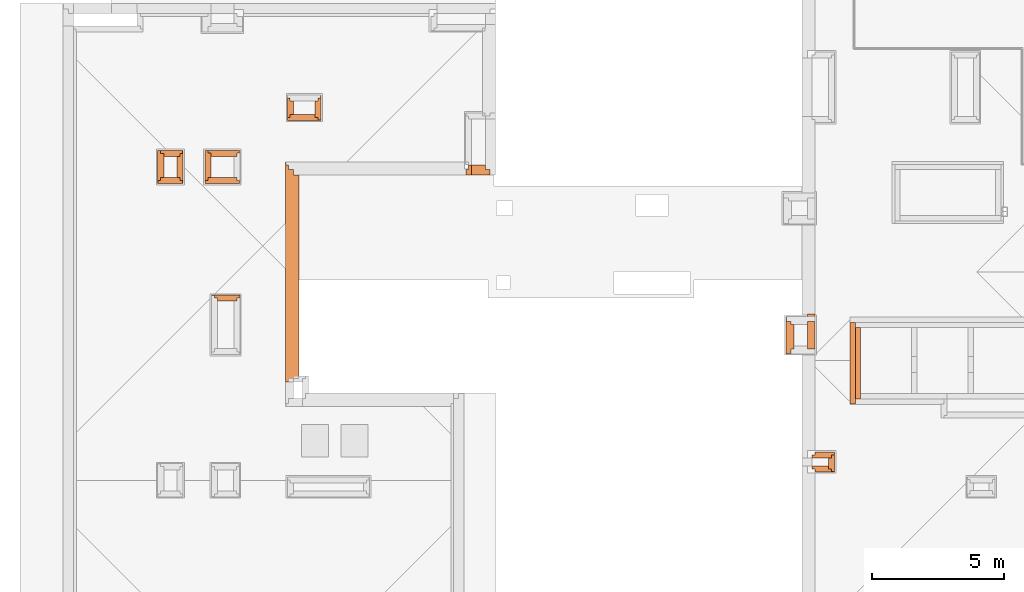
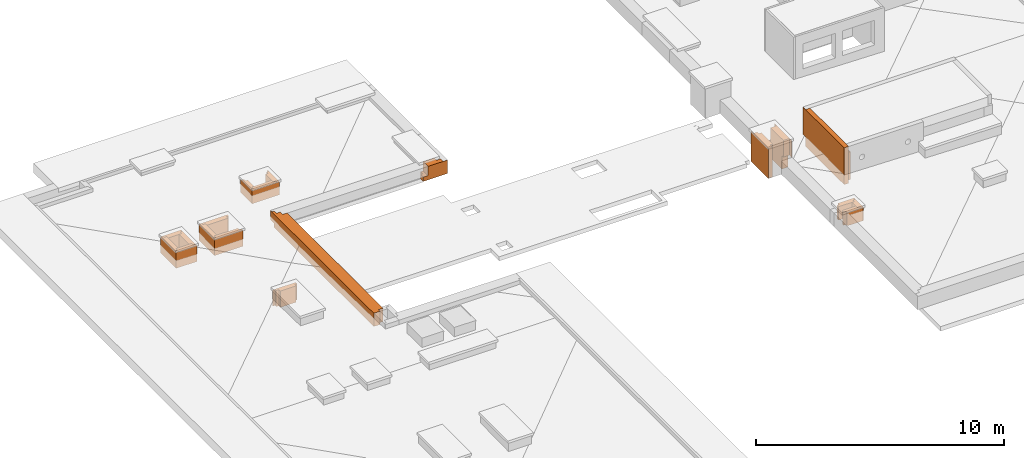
# One storey, part 9 of 16: 19 proxies.
"""IFC2X3 building model written with IfcOpenShell, lengths in millimetres."""

from ifc_helpers import new_model, entity, si_unit, converted_unit, derived_unit, money_unit, direction, frame, origin_with_axes, place, context, subcontext, project, spatial, faceted_brep, material, material_list, type_object, element, save


model = new_model("IFC2X3")

# Units and contexts
model_context = context("Model", 3, precision=0.01, world=origin_with_axes(), true_north=direction((0.34421633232, 0.938890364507)))
body_context = subcontext(model_context, "Body", "Model", "MODEL_VIEW")
ifc_project = project(units=[si_unit("LENGTHUNIT", "METRE", prefix="MILLI"), si_unit("AREAUNIT", "SQUARE_METRE"), si_unit("VOLUMEUNIT", "CUBIC_METRE"), converted_unit("PLANEANGLEUNIT", "DEGREE", entity("IfcPlaneAngleMeasure", 0.0174532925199), si_unit("PLANEANGLEUNIT", "RADIAN"), dimensions=[0, 0, 0, 0, 0, 0, 0]), si_unit("SOLIDANGLEUNIT", "STERADIAN"), money_unit("USD"), converted_unit("TIMEUNIT", "Year", entity("IfcTimeMeasure", 31556926.0), si_unit("TIMEUNIT", "SECOND"), dimensions=[0, 0, 1, 0, 0, 0, 0]), si_unit("MASSUNIT", "GRAM", prefix="KILO"), si_unit("THERMODYNAMICTEMPERATUREUNIT", "DEGREE_CELSIUS"), si_unit("LUMINOUSINTENSITYUNIT", "LUMEN"), si_unit("ENERGYUNIT", "JOULE", prefix="MEGA"), derived_unit("THERMALCONDUCTANCEUNIT", [(si_unit("POWERUNIT", "WATT"), 1), (si_unit("LENGTHUNIT", "METRE"), -1), (si_unit("THERMODYNAMICTEMPERATUREUNIT", "KELVIN"), -1)]), derived_unit("SPECIFICHEATCAPACITYUNIT", [(si_unit("ENERGYUNIT", "JOULE"), 1), (si_unit("MASSUNIT", "GRAM", prefix="KILO"), -1), (si_unit("THERMODYNAMICTEMPERATUREUNIT", "KELVIN"), -1)]), derived_unit("MASSDENSITYUNIT", [(si_unit("MASSUNIT", "GRAM", prefix="KILO"), 1), (si_unit("VOLUMEUNIT", "CUBIC_METRE"), -1)])], contexts=[model_context])

# Site, building, storey
site_placement = place(None, origin_with_axes())
site = spatial("IfcSite", under=ifc_project, at=site_placement, Name="USTRONIE MORSKIE", CompositionType="ELEMENT")
building_placement = place(site_placement, origin_with_axes())
building = spatial("IfcBuilding", under=site, at=building_placement, Name="Budynek", CompositionType="ELEMENT")
storey_placement = place(building_placement, frame((0.0, 0.0, 19000.0), z_axis=(0.0, 0.0, 1.0), x_axis=(1.0, 0.0, 0.0)))
storey = spatial("IfcBuildingStorey", under=building, at=storey_placement, Name="DACH", CompositionType="ELEMENT", Elevation=19000.0)

# Proxies
ifc_material_1 = material(Name="Tynk zewnętrzny")
ifc_material_2 = material(Name="Wełna ELEW")
ifc_material_3 = material(Name="Beton konstrukcyjny B25")
ifc_material_list_1 = material_list([ifc_material_1, ifc_material_2, ifc_material_3])
building_element_proxy_type_1 = type_object("IfcBuildingElementProxyType", Name="20+20 410", PredefinedType="NOTDEFINED")
proxy_1_placement = place(storey_placement, frame((381137.920919, 730091.199025, -360.0), z_axis=(0.0, 0.0, 1.0), x_axis=(0.0, 1.0, 0.0)))
element("IfcBuildingElementProxy", 1, at=proxy_1_placement, inside=storey, type_object=building_element_proxy_type_1, material=ifc_material_list_1, Name="Œciana-006", context=body_context, shape_type="Brep", body=[
    faceted_brep([(-200.0, 300.0, 692.511983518), (1354.99991171, 300.0, 723.611981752), (2909.99982342, 300.0, 692.511983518), (3010.00001118, 300.0, 692.511987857), (3010.00001118, 300.0, 2025.0), (-310.0, 300.0, 2025.0), (-310.0, 300.0, 692.511988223), (-300.0, 300.0, 692.511988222), (1354.99991171, 310.0, 723.611981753), (-189.999924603, 310.000075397, 692.711985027), (2899.99991419, 309.999909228, 692.711981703), (3010.00001118, 310.0, 692.711987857), (3010.00001118, 310.0, 2025.0), (-310.0, 310.0, 2025.0), (-310.0, 310.0, 692.711988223)], [[[0, 1, 2, 3, 4, 5, 6, 7]], [[8, 1, 0, 9]], [[1, 8, 10, 2]], [[11, 3, 2, 10]], [[11, 12, 4, 3]], [[4, 12, 13, 5]], [[13, 14, 6, 5]], [[9, 0, 7, 6, 14]], [[8, 9, 14, 13, 12, 11, 10]]]),
    faceted_brep([(-300.0, 100.0, 205.0), (2810.00001118, 100.0, 205.0), (2810.00001118, 100.0, 2025.0), (-300.0, 100.0, 2025.0), (2810.00001118, 300.0, 205.0), (-300.0, 300.0, 205.0), (2810.00001118, 300.0, 2025.0), (-300.0, 300.0, 2025.0)], [[[0, 1, 2, 3]], [[4, 1, 0, 5]], [[1, 4, 6, 2]], [[2, 6, 7, 3]], [[5, 0, 3, 7]], [[4, 5, 7, 6]]]),
    faceted_brep([(2610.00001118, -100.0, 200.0), (2610.00001118, 100.0, 200.0), (2610.00001118, 100.0, 1570.0), (2610.00001118, -100.0, 1570.0), (-100.0, -100.0, 200.0), (-100.0, 100.0, 200.0), (-100.0, 100.0, 1570.0), (-100.0, -100.0, 1570.0)], [[[0, 1, 2, 3]], [[4, 5, 1, 0]], [[1, 5, 6, 2]], [[2, 6, 7, 3]], [[4, 0, 3, 7]], [[5, 4, 7, 6]]]),
])
ifc_material_4 = material(Name="Bloczki silikatowe")
ifc_material_list_2 = material_list([ifc_material_1, ifc_material_2, ifc_material_4, ifc_material_2, ifc_material_1])
building_element_proxy_type_2 = type_object("IfcBuildingElementProxyType", Name="18 SILIKAT+20-10 500", PredefinedType="NOTDEFINED")
proxy_2_placement = place(storey_placement, frame((359697.920867, 738701.198924, -155.0), z_axis=(0.0, 0.0, 1.0), x_axis=(0.0, -1.0, 0.0)))
element("IfcBuildingElementProxy", 2, at=proxy_2_placement, inside=storey, type_object=building_element_proxy_type_2, material=ifc_material_list_2, Name="Œciana-006", context=body_context, shape_type="Brep", body=[
    faceted_brep([(7839.99988821, 200.0, 655.0), (7839.99988821, 210.0, 655.0), (210.0, 210.0, 655.0), (210.0, 200.0, 655.0), (7839.99988821, 210.0, 0.0), (7839.99988821, 200.0, 0.0), (0.0, 210.0, 0.0), (0.0, 210.0, 205.0), (200.0, 210.0, 205.0), (210.0, 210.0, 205.0), (210.0, 200.0, 205.0), (200.0, 200.0, 205.0), (0.0, 200.0, 205.0), (0.0, 200.0, 0.0)], [[[0, 1, 2, 3]], [[4, 1, 0, 5]], [[1, 4, 6, 7, 8, 9, 2]], [[3, 2, 9, 10]], [[5, 0, 3, 10, 11, 12, 13]], [[4, 5, 13, 6]], [[12, 7, 6, 13]], [[11, 8, 7, 12]], [[9, 8, 11, 10]]]),
    faceted_brep([(7939.99988821, 0.0, 655.0), (7939.99988821, 200.0, 655.0), (200.0, 200.0, 655.0), (200.0, 0.0, 655.0), (7939.99988821, 200.0, 0.0), (7939.99988821, 0.0, 0.0), (0.0, 200.0, 0.0), (0.0, 200.0, 205.0), (200.0, 200.0, 205.0), (200.0, 0.0, 205.0), (0.0, 0.0, 205.0), (0.0, 0.0, 0.0)], [[[0, 1, 2, 3]], [[4, 1, 0, 5]], [[1, 4, 6, 7, 8, 2]], [[3, 2, 8, 9]], [[5, 0, 3, 9, 10, 11]], [[4, 5, 11, 6]], [[10, 7, 6, 11]], [[8, 7, 10, 9]]]),
    faceted_brep([(0.0, 0.0, 205.0), (0.0, 0.0, 655.0), (8059.99988821, 0.0, 655.0), (8059.99988821, 0.0, 0.0), (0.0, 0.0, 0.0), (0.0, -180.0, 655.0), (0.0, -180.0, 205.0), (8059.99988821, -180.0, 655.0), (8059.99988821, -180.0, 0.0), (0.0, -180.0, 0.0)], [[[0, 1, 2, 3, 4]], [[5, 1, 0, 6]], [[1, 5, 7, 2]], [[3, 2, 7, 8]], [[8, 9, 4, 3]], [[6, 0, 4, 9]], [[5, 6, 9, 8, 7]]]),
    faceted_brep([(-180.0, -180.0, 205.0), (-180.0, -180.0, 655.0), (8059.99988821, -180.0, 655.0), (8059.99988821, -180.0, 0.0), (0.0, -180.0, 0.0), (0.0, -180.0, 205.0), (-180.0, -280.0, 655.0), (-180.0, -280.0, 205.0), (8059.99988821, -280.0, 655.0), (8059.99988821, -280.0, 0.0), (0.0, -280.0, 0.0), (0.0, -280.0, 205.0)], [[[0, 1, 2, 3, 4, 5]], [[6, 1, 0, 7]], [[1, 6, 8, 2]], [[3, 2, 8, 9]], [[9, 10, 4, 3]], [[11, 5, 4, 10]], [[7, 0, 5, 11]], [[6, 7, 11, 10, 9, 8]]]),
    faceted_brep([(-280.0, -280.0, 205.0), (-280.0, -280.0, 655.0), (8059.99988821, -280.0, 655.0), (8059.99988821, -280.0, 0.0), (0.0, -280.0, 0.0), (0.0, -280.0, 205.0), (-280.0, -290.0, 655.0), (-280.0, -290.0, 205.0), (8059.99988821, -290.0, 655.0), (8059.99988821, -290.0, 0.0), (0.0, -290.0, 0.0), (0.0, -290.0, 205.0)], [[[0, 1, 2, 3, 4, 5]], [[6, 1, 0, 7]], [[1, 6, 8, 2]], [[3, 2, 8, 9]], [[9, 10, 4, 3]], [[11, 5, 4, 10]], [[7, 0, 5, 11]], [[6, 7, 11, 10, 9, 8]]]),
])
ifc_material_list_3 = material_list([ifc_material_4, ifc_material_2, ifc_material_1])
building_element_proxy_type_3 = type_object("IfcBuildingElementProxyType", Name="12+18_TERMO 310", PredefinedType="NOTDEFINED")
proxy_3_placement = place(storey_placement, frame((378717.924635, 732811.199494, -160.0), z_axis=(0.0, 0.0, 1.0), x_axis=(0.0, -1.0, 0.0)))
element("IfcBuildingElementProxy", 3, at=proxy_3_placement, inside=storey, type_object=building_element_proxy_type_3, material=ifc_material_list_3, Name="Œciana-006", context=body_context, shape_type="Brep", body=[
    faceted_brep([(920.000361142, 0.0, 0.0), (920.000361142, -120.0, 0.0), (0.0, -120.0, 0.0), (0.0, 0.0, 0.0), (920.000361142, 0.0, 1480.0), (920.000361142, -120.0, 1480.0), (0.0, -120.0, 1480.0), (0.0, 0.0, 1480.0)], [[[0, 1, 2, 3]], [[1, 0, 4, 5]], [[1, 5, 6, 2]], [[7, 3, 2, 6]], [[4, 0, 3, 7]], [[5, 4, 7, 6]]]),
    faceted_brep([(1100.00036114, -120.0, 0.0), (1100.00036114, -300.0, 0.0), (-120.0, -300.0, 0.0), (-120.0, -120.0, 0.0), (1100.00036114, -120.0, 1480.0), (1100.00036114, -300.0, 1480.0), (-120.0, -300.0, 1480.0), (-120.0, -120.0, 1480.0)], [[[0, 1, 2, 3]], [[1, 0, 4, 5]], [[1, 5, 6, 2]], [[7, 3, 2, 6]], [[4, 0, 3, 7]], [[5, 4, 7, 6]]]),
    faceted_brep([(1110.00036114, -300.0, 0.0), (1110.00036114, -310.0, 0.0), (-300.0, -310.0, 0.0), (-300.0, -300.0, 0.0), (1110.00036114, -300.0, 1480.0), (1110.00036114, -310.0, 1480.0), (-300.0, -310.0, 1480.0), (-300.0, -300.0, 1480.0)], [[[0, 1, 2, 3]], [[1, 0, 4, 5]], [[1, 5, 6, 2]], [[7, 3, 2, 6]], [[4, 0, 3, 7]], [[5, 4, 7, 6]]]),
])
ifc_material_list_4 = material_list([ifc_material_1, ifc_material_2, ifc_material_4])
building_element_proxy_type_4 = type_object("IfcBuildingElementProxyType", Name="12+10 kominy 230", PredefinedType="NOTDEFINED")
proxy_4_placement = place(storey_placement, frame((354777.922503, 739201.195166, -160.0), z_axis=(0.0, 0.0, 1.0), x_axis=(1.0, 0.0, 0.0)))
element("IfcBuildingElementProxy", 4, at=proxy_4_placement, inside=storey, type_object=building_element_proxy_type_4, material=ifc_material_list_4, Name="Œciana-006", context=body_context, shape_type="Brep", body=[
    faceted_brep([(729.998416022, 220.0, 5.0), (729.998416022, 230.0, 5.0), (729.998416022, 230.0, 800.000001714), (729.998416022, 220.0, 800.000001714), (-220.0, 230.0, 5.0), (-220.0, 220.0, 5.0), (-220.0, 230.0, 800.000001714), (-220.0, 220.0, 800.000001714)], [[[0, 1, 2, 3]], [[4, 1, 0, 5]], [[1, 4, 6, 2]], [[3, 2, 6, 7]], [[5, 0, 3, 7]], [[4, 5, 7, 6]]]),
    faceted_brep([(719.998416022, 120.0, 5.0), (719.998416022, 220.0, 5.0), (719.998416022, 220.0, 800.000001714), (719.998416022, 120.0, 800.000001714), (-120.0, 220.0, 5.0), (-120.0, 120.0, 5.0), (-120.0, 220.0, 800.000001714), (-120.0, 120.0, 800.000001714)], [[[0, 1, 2, 3]], [[4, 1, 0, 5]], [[1, 4, 6, 2]], [[3, 2, 6, 7]], [[5, 0, 3, 7]], [[4, 5, 7, 6]]]),
    faceted_brep([(619.998416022, 0.0, 800.000001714), (619.998416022, 120.0, 800.000001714), (0.0, 120.0, 800.000001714), (0.0, 0.0, 800.000001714), (619.998416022, 0.0, 0.0), (619.998416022, 120.0, 0.0), (0.0, 120.0, 0.0), (0.0, 0.0, 0.0)], [[[0, 1, 2, 3]], [[1, 0, 4, 5]], [[1, 5, 6, 2]], [[7, 3, 2, 6]], [[4, 0, 3, 7]], [[5, 4, 7, 6]]]),
])
proxy_5_placement = place(storey_placement, frame((357437.920919, 738401.205592, -160.0), z_axis=(0.0, 0.0, 1.0), x_axis=(-1.0, 0.0, 0.0)))
element("IfcBuildingElementProxy", 5, at=proxy_5_placement, inside=storey, type_object=building_element_proxy_type_4, material=ifc_material_list_4, Name="Œciana-006", context=body_context, shape_type="Brep", body=[
    faceted_brep([(620.0, 230.0, 5.0), (620.0, 220.0, 5.0), (-230.0, 220.0, 5.0), (-230.0, 230.0, 5.0), (1100.0, 220.0, 5.0), (1100.0, 230.0, 5.0), (1100.0, 220.0, 800.000001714), (-230.0, 220.0, 800.000001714), (-230.0, 230.0, 800.000001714), (1100.0, 230.0, 800.000001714)], [[[0, 1, 2, 3]], [[4, 1, 0, 5]], [[1, 4, 6, 7, 2]], [[3, 2, 7, 8]], [[5, 0, 3, 8, 9]], [[4, 5, 9, 6]], [[6, 9, 8, 7]]]),
    faceted_brep([(-220.0, 220.0, 5.0), (1090.0, 220.0, 5.0), (1090.0, 120.0, 5.0), (-220.0, 120.0, 5.0), (-220.0, 220.0, 800.000001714), (1090.0, 220.0, 800.000001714), (1090.0, 120.0, 800.000001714), (-220.0, 120.0, 800.000001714)], [[[0, 1, 2, 3]], [[1, 0, 4, 5]], [[2, 1, 5, 6]], [[2, 6, 7, 3]], [[0, 3, 7, 4]], [[6, 5, 4, 7]]]),
    faceted_brep([(990.0, 0.0, 800.000001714), (990.0, 120.0, 800.000001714), (-120.0, 120.0, 800.000001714), (-120.0, 0.0, 800.000001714), (990.0, 0.0, 0.0), (990.0, 120.0, 0.0), (-120.0, 120.0, 0.0), (-120.0, 0.0, 0.0)], [[[0, 1, 2, 3]], [[1, 0, 4, 5]], [[1, 5, 6, 2]], [[7, 3, 2, 6]], [[4, 0, 3, 7]], [[5, 4, 7, 6]]]),
])
proxy_6_placement = place(storey_placement, frame((380017.92182, 727751.199036, -159.999998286), z_axis=(0.0, 0.0, 1.0), x_axis=(0.0, -1.0, 0.0)))
element("IfcBuildingElementProxy", 6, at=proxy_6_placement, inside=storey, type_object=building_element_proxy_type_4, material=ifc_material_list_4, Name="Œciana-006", context=body_context, shape_type="Brep", body=[
    faceted_brep([(530.0, 230.0, 4.99999828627), (-220.0, 230.0, 4.99999828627), (-220.0, 230.0, 659.999998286), (530.0, 230.0, 659.999998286), (-220.0, 220.0, 4.99999828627), (530.0, 220.0, 4.99999828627), (-220.0, 220.0, 659.999998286), (530.0, 220.0, 659.999998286)], [[[0, 1, 2, 3]], [[4, 1, 0, 5]], [[1, 4, 6, 2]], [[7, 3, 2, 6]], [[5, 0, 3, 7]], [[4, 5, 7, 6]]]),
    faceted_brep([(520.0, 220.0, 4.99999828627), (-120.0, 220.0, 4.99999828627), (-120.0, 220.0, 659.999998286), (520.0, 220.0, 659.999998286), (-120.0, 120.0, 4.99999828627), (520.0, 120.0, 4.99999828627), (-120.0, 120.0, 659.999998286), (520.0, 120.0, 659.999998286)], [[[0, 1, 2, 3]], [[4, 1, 0, 5]], [[1, 4, 6, 2]], [[7, 3, 2, 6]], [[5, 0, 3, 7]], [[4, 5, 7, 6]]]),
    faceted_brep([(420.0, 0.0, 659.999998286), (420.0, 120.0, 659.999998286), (0.0, 120.0, 659.999998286), (0.0, 0.0, 659.999998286), (420.0, 0.0, 0.0), (420.0, 120.0, 0.0), (0.0, 120.0, 0.0), (0.0, 0.0, 0.0)], [[[0, 1, 2, 3]], [[1, 0, 4, 5]], [[1, 5, 6, 2]], [[7, 3, 2, 6]], [[4, 0, 3, 7]], [[5, 4, 7, 6]]]),
])
proxy_7_placement = place(storey_placement, frame((359697.920897, 741301.180377, -160.0), z_axis=(0.0, 0.0, 1.0), x_axis=(0.0, -1.0, 0.0)))
element("IfcBuildingElementProxy", 7, at=proxy_7_placement, inside=storey, type_object=building_element_proxy_type_4, material=ifc_material_list_3, Name="Œciana-006", context=body_context, shape_type="Brep", body=[
    faceted_brep([(499.98043708, 0.0, 0.0), (499.98043708, -120.0, 0.0), (0.0, -120.0, 0.0), (0.0, 0.0, 0.0), (499.98043708, 0.0, 660.0), (499.98043708, -120.0, 660.0), (0.0, -120.0, 660.0), (0.0, 0.0, 660.0)], [[[0, 1, 2, 3]], [[1, 0, 4, 5]], [[1, 5, 6, 2]], [[7, 3, 2, 6]], [[4, 0, 3, 7]], [[5, 4, 7, 6]]]),
    faceted_brep([(619.98043708, -120.0, 5.0), (-120.0, -120.0, 5.0), (-120.0, -120.0, 660.0), (619.98043708, -120.0, 660.0), (-120.0, -220.0, 5.0), (619.98043708, -220.0, 5.0), (-120.0, -220.0, 660.0), (619.98043708, -220.0, 660.0)], [[[0, 1, 2, 3]], [[4, 1, 0, 5]], [[1, 4, 6, 2]], [[7, 3, 2, 6]], [[5, 0, 3, 7]], [[4, 5, 7, 6]]]),
    faceted_brep([(719.98043708, -220.0, 5.0), (-220.0, -220.0, 5.0), (-220.0, -220.0, 660.0), (719.98043708, -220.0, 660.0), (-220.0, -230.0, 5.0), (719.98043708, -230.0, 5.0), (-220.0, -230.0, 660.0), (719.98043708, -230.0, 660.0)], [[[0, 1, 2, 3]], [[4, 1, 0, 5]], [[1, 4, 6, 2]], [[7, 3, 2, 6]], [[5, 0, 3, 7]], [[4, 5, 7, 6]]]),
])
proxy_8_placement = place(storey_placement, frame((380017.92182, 727451.199036, -159.999998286), z_axis=(0.0, 0.0, 1.0), x_axis=(-1.0, 0.0, 0.0)))
element("IfcBuildingElementProxy", 8, at=proxy_8_placement, inside=storey, type_object=building_element_proxy_type_4, material=ifc_material_list_4, Name="Œciana-006", context=body_context, shape_type="Brep", body=[
    faceted_brep([(-220.0, 230.0, 4.99999828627), (-220.0, 220.0, 4.99999828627), (-220.0, 220.0, 659.999998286), (-220.0, 230.0, 659.999998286), (510.00090117, 220.0, 4.99999828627), (510.00090117, 230.0, 4.99999828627), (510.00090117, 220.0, 659.999998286), (510.00090117, 230.0, 659.999998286)], [[[0, 1, 2, 3]], [[4, 1, 0, 5]], [[1, 4, 6, 2]], [[2, 6, 7, 3]], [[5, 0, 3, 7]], [[4, 5, 7, 6]]]),
    faceted_brep([(-120.0, 220.0, 4.99999828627), (-120.0, 120.0, 4.99999828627), (-120.0, 120.0, 659.999998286), (-120.0, 220.0, 659.999998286), (520.00090117, 120.0, 4.99999828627), (520.00090117, 220.0, 4.99999828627), (520.00090117, 120.0, 659.999998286), (520.00090117, 220.0, 659.999998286)], [[[0, 1, 2, 3]], [[4, 1, 0, 5]], [[1, 4, 6, 2]], [[2, 6, 7, 3]], [[5, 0, 3, 7]], [[4, 5, 7, 6]]]),
    faceted_brep([(0.0, 0.0, -4.22037516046e-07), (620.00090117, 0.0, -1.71373315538e-06), (620.00090117, 0.0, 659.999998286), (0.0, 0.0, 659.999998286), (0.0, 120.0, -4.22037516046e-07), (620.00090117, 120.0, -1.71373315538e-06), (620.00090117, 120.0, 659.999998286), (0.0, 120.0, 659.999998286)], [[[0, 1, 2, 3]], [[4, 5, 1, 0]], [[5, 6, 2, 1]], [[3, 2, 6, 7]], [[4, 0, 3, 7]], [[7, 6, 5, 4]]]),
])
proxy_9_placement = place(storey_placement, frame((356567.920919, 739201.205592, -160.0), z_axis=(0.0, 0.0, 1.0), x_axis=(1.0, 0.0, 0.0)))
element("IfcBuildingElementProxy", 9, at=proxy_9_placement, inside=storey, type_object=building_element_proxy_type_4, material=ifc_material_list_4, Name="Œciana-006", context=body_context, shape_type="Brep", body=[
    faceted_brep([(250.0, 220.0, 5.0), (250.0, 230.0, 5.0), (1100.0, 230.0, 5.0), (1100.0, 220.0, 5.0), (-220.0, 230.0, 5.0), (-220.0, 220.0, 5.0), (-220.0, 230.0, 800.000001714), (1100.0, 230.0, 800.000001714), (1100.0, 220.0, 800.000001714), (-220.0, 220.0, 800.000001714)], [[[0, 1, 2, 3]], [[4, 1, 0, 5]], [[1, 4, 6, 7, 2]], [[3, 2, 7, 8]], [[5, 0, 3, 8, 9]], [[4, 5, 9, 6]], [[8, 7, 6, 9]]]),
    faceted_brep([(1090.0, 120.0, 5.0), (-120.0, 120.0, 5.0), (-120.0, 220.0, 5.0), (1090.0, 220.0, 5.0), (1090.0, 120.0, 800.000001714), (-120.0, 120.0, 800.000001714), (-120.0, 220.0, 800.000001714), (1090.0, 220.0, 800.000001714)], [[[0, 1, 2, 3]], [[1, 0, 4, 5]], [[2, 1, 5, 6]], [[2, 6, 7, 3]], [[0, 3, 7, 4]], [[4, 7, 6, 5]]]),
    faceted_brep([(990.0, 0.0, 800.000001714), (990.0, 120.0, 800.000001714), (0.0, 120.0, 800.000001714), (0.0, 0.0, 800.000001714), (990.0, 0.0, 0.0), (990.0, 120.0, 0.0), (0.0, 120.0, 0.0), (0.0, 0.0, 0.0)], [[[0, 1, 2, 3]], [[1, 0, 4, 5]], [[1, 5, 6, 2]], [[7, 3, 2, 6]], [[4, 0, 3, 7]], [[5, 4, 7, 6]]]),
])
proxy_10_placement = place(storey_placement, frame((354777.922503, 738401.179881, -160.0), z_axis=(0.0, 0.0, 1.0), x_axis=(0.0, 1.0, 0.0)))
element("IfcBuildingElementProxy", 10, at=proxy_10_placement, inside=storey, type_object=building_element_proxy_type_4, material=ifc_material_list_4, Name="Œciana-006", context=body_context, shape_type="Brep", body=[
    faceted_brep([(-220.0, 220.0, 5.0), (1030.01528481, 220.0, 5.0), (1030.01528481, 220.0, 800.000001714), (-220.0, 220.0, 800.000001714), (1030.01528481, 230.0, 5.0), (-220.0, 230.0, 5.0), (1030.01528481, 230.0, 800.000001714), (-220.0, 230.0, 800.000001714)], [[[0, 1, 2, 3]], [[4, 1, 0, 5]], [[1, 4, 6, 2]], [[2, 6, 7, 3]], [[5, 0, 3, 7]], [[4, 5, 7, 6]]]),
    faceted_brep([(-120.0, 120.0, 5.0), (1020.01528481, 120.0, 5.0), (1020.01528481, 120.0, 800.000001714), (-120.0, 120.0, 800.000001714), (1020.01528481, 220.0, 5.0), (-120.0, 220.0, 5.0), (1020.01528481, 220.0, 800.000001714), (-120.0, 220.0, 800.000001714)], [[[0, 1, 2, 3]], [[4, 1, 0, 5]], [[1, 4, 6, 2]], [[2, 6, 7, 3]], [[5, 0, 3, 7]], [[4, 5, 7, 6]]]),
    faceted_brep([(920.015284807, 0.0, 800.000001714), (920.015284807, 120.0, 800.000001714), (0.0, 120.0, 800.000001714), (0.0, 0.0, 800.000001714), (920.015284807, 0.0, 0.0), (920.015284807, 120.0, 0.0), (0.0, 120.0, 0.0), (0.0, 0.0, 0.0)], [[[0, 1, 2, 3]], [[1, 0, 4, 5]], [[1, 5, 6, 2]], [[7, 3, 2, 6]], [[4, 0, 3, 7]], [[5, 4, 7, 6]]]),
])
proxy_11_placement = place(storey_placement, frame((355277.920919, 739201.195166, -160.0), z_axis=(0.0, 0.0, 1.0), x_axis=(0.0, -1.0, 0.0)))
element("IfcBuildingElementProxy", 11, at=proxy_11_placement, inside=storey, type_object=building_element_proxy_type_4, material=ifc_material_list_4, Name="Œciana-006", context=body_context, shape_type="Brep", body=[
    faceted_brep([(1020.01528481, 230.0, 5.0), (-220.0, 230.0, 5.0), (-220.0, 230.0, 800.000001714), (1020.01528481, 230.0, 800.000001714), (-220.0, 220.0, 5.0), (1020.01528481, 220.0, 5.0), (-220.0, 220.0, 800.000001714), (1020.01528481, 220.0, 800.000001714)], [[[0, 1, 2, 3]], [[4, 1, 0, 5]], [[1, 4, 6, 2]], [[7, 3, 2, 6]], [[5, 0, 3, 7]], [[4, 5, 7, 6]]]),
    faceted_brep([(920.015284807, 220.0, 5.0), (-120.0, 220.0, 5.0), (-120.0, 220.0, 800.000001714), (920.015284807, 220.0, 800.000001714), (-120.0, 120.0, 5.0), (920.015284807, 120.0, 5.0), (-120.0, 120.0, 800.000001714), (920.015284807, 120.0, 800.000001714)], [[[0, 1, 2, 3]], [[4, 1, 0, 5]], [[1, 4, 6, 2]], [[7, 3, 2, 6]], [[5, 0, 3, 7]], [[4, 5, 7, 6]]]),
    faceted_brep([(800.015284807, 0.0, 800.000001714), (800.015284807, 120.0, 800.000001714), (0.0, 120.0, 800.000001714), (0.0, 0.0, 800.000001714), (800.015284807, 0.0, 0.0), (800.015284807, 120.0, 0.0), (0.0, 120.0, 0.0), (0.0, 0.0, 0.0)], [[[0, 1, 2, 3]], [[1, 0, 4, 5]], [[1, 5, 6, 2]], [[7, 3, 2, 6]], [[4, 0, 3, 7]], [[5, 4, 7, 6]]]),
])
proxy_12_placement = place(storey_placement, frame((360517.922714, 741301.180377, -160.0), z_axis=(0.0, 0.0, 1.0), x_axis=(0.0, -1.0, 0.0)))
element("IfcBuildingElementProxy", 12, at=proxy_12_placement, inside=storey, type_object=building_element_proxy_type_4, material=ifc_material_list_4, Name="Œciana-006", context=body_context, shape_type="Brep", body=[
    faceted_brep([(729.98043708, 230.0, 5.0), (-220.0, 230.0, 5.0), (-220.0, 230.0, 660.0), (729.98043708, 230.0, 660.0), (-220.0, 220.0, 5.0), (729.98043708, 220.0, 5.0), (-220.0, 220.0, 660.0), (729.98043708, 220.0, 660.0)], [[[0, 1, 2, 3]], [[4, 1, 0, 5]], [[1, 4, 6, 2]], [[7, 3, 2, 6]], [[5, 0, 3, 7]], [[4, 5, 7, 6]]]),
    faceted_brep([(719.98043708, 220.0, 5.0), (-120.0, 220.0, 5.0), (-120.0, 220.0, 660.0), (719.98043708, 220.0, 660.0), (-120.0, 120.0, 5.0), (719.98043708, 120.0, 5.0), (-120.0, 120.0, 660.0), (719.98043708, 120.0, 660.0)], [[[0, 1, 2, 3]], [[4, 1, 0, 5]], [[1, 4, 6, 2]], [[7, 3, 2, 6]], [[5, 0, 3, 7]], [[4, 5, 7, 6]]]),
    faceted_brep([(619.98043708, 0.0, 660.0), (619.98043708, 120.0, 660.0), (0.0, 120.0, 660.0), (0.0, 0.0, 660.0), (619.98043708, 0.0, 0.0), (619.98043708, 120.0, 0.0), (0.0, 120.0, 0.0), (0.0, 0.0, 0.0)], [[[0, 1, 2, 3]], [[1, 0, 4, 5]], [[1, 5, 6, 2]], [[7, 3, 2, 6]], [[4, 0, 3, 7]], [[5, 4, 7, 6]]]),
])
proxy_13_placement = place(storey_placement, frame((356567.920919, 738401.205592, -160.0), z_axis=(0.0, 0.0, 1.0), x_axis=(0.0, 1.0, 0.0)))
element("IfcBuildingElementProxy", 13, at=proxy_13_placement, inside=storey, type_object=building_element_proxy_type_4, material=ifc_material_list_4, Name="Œciana-006", context=body_context, shape_type="Brep", body=[
    faceted_brep([(-220.0, 220.0, 5.0), (1030.0, 220.0, 5.0), (1030.0, 220.0, 800.000001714), (-220.0, 220.0, 800.000001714), (1030.0, 230.0, 5.0), (-220.0, 230.0, 5.0), (1030.0, 230.0, 800.000001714), (-220.0, 230.0, 800.000001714)], [[[0, 1, 2, 3]], [[4, 1, 0, 5]], [[1, 4, 6, 2]], [[2, 6, 7, 3]], [[5, 0, 3, 7]], [[4, 5, 7, 6]]]),
    faceted_brep([(-120.0, 120.0, 5.0), (1020.0, 120.0, 5.0), (1020.0, 120.0, 800.000001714), (-120.0, 120.0, 800.000001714), (1020.0, 220.0, 5.0), (-120.0, 220.0, 5.0), (1020.0, 220.0, 800.000001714), (-120.0, 220.0, 800.000001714)], [[[0, 1, 2, 3]], [[4, 1, 0, 5]], [[1, 4, 6, 2]], [[2, 6, 7, 3]], [[5, 0, 3, 7]], [[4, 5, 7, 6]]]),
    faceted_brep([(920.0, 0.0, 800.000001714), (920.0, 120.0, 800.000001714), (0.0, 120.0, 800.000001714), (0.0, 0.0, 800.000001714), (920.0, 0.0, 0.0), (920.0, 120.0, 0.0), (0.0, 120.0, 0.0), (0.0, 0.0, 0.0)], [[[0, 1, 2, 3]], [[1, 0, 4, 5]], [[1, 5, 6, 2]], [[7, 3, 2, 6]], [[4, 0, 3, 7]], [[5, 4, 7, 6]]]),
])
proxy_14_placement = place(storey_placement, frame((356817.920919, 733701.199036, -160.0), z_axis=(0.0, 0.0, 1.0), x_axis=(1.0, 0.0, 0.0)))
element("IfcBuildingElementProxy", 14, at=proxy_14_placement, inside=storey, type_object=building_element_proxy_type_4, material=ifc_material_list_4, Name="Œciana-006", context=body_context, shape_type="Brep", body=[
    faceted_brep([(850.0, 220.0, 5.0), (850.0, 230.0, 5.0), (850.0, 230.0, 800.000001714), (850.0, 220.0, 800.000001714), (-220.0, 230.0, 5.0), (-220.0, 220.0, 5.0), (-220.0, 230.0, 800.000001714), (-220.0, 220.0, 800.000001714)], [[[0, 1, 2, 3]], [[4, 1, 0, 5]], [[1, 4, 6, 2]], [[3, 2, 6, 7]], [[5, 0, 3, 7]], [[4, 5, 7, 6]]]),
    faceted_brep([(840.0, 120.0, 5.0), (840.0, 220.0, 5.0), (840.0, 220.0, 800.000001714), (840.0, 120.0, 800.000001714), (-120.0, 220.0, 5.0), (-120.0, 120.0, 5.0), (-120.0, 220.0, 800.000001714), (-120.0, 120.0, 800.000001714)], [[[0, 1, 2, 3]], [[4, 1, 0, 5]], [[1, 4, 6, 2]], [[3, 2, 6, 7]], [[5, 0, 3, 7]], [[4, 5, 7, 6]]]),
    faceted_brep([(740.0, 0.0, 800.000001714), (740.0, 120.0, 800.000001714), (0.0, 120.0, 800.000001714), (0.0, 0.0, 800.000001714), (740.0, 0.0, 0.0), (740.0, 120.0, 0.0), (0.0, 120.0, 0.0), (0.0, 0.0, 0.0)], [[[0, 1, 2, 3]], [[1, 0, 4, 5]], [[1, 5, 6, 2]], [[7, 3, 2, 6]], [[4, 0, 3, 7]], [[5, 4, 7, 6]]]),
])
proxy_15_placement = place(storey_placement, frame((355277.920919, 738401.179881, -160.0), z_axis=(0.0, 0.0, 1.0), x_axis=(-1.0, 0.0, 0.0)))
element("IfcBuildingElementProxy", 15, at=proxy_15_placement, inside=storey, type_object=building_element_proxy_type_4, material=ifc_material_list_4, Name="Œciana-006", context=body_context, shape_type="Brep", body=[
    faceted_brep([(-230.0, 230.0, 5.0), (-230.0, 220.0, 5.0), (-230.0, 220.0, 800.000001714), (-230.0, 230.0, 800.000001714), (729.998416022, 220.0, 5.0), (729.998416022, 230.0, 5.0), (729.998416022, 220.0, 800.000001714), (729.998416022, 230.0, 800.000001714)], [[[0, 1, 2, 3]], [[4, 1, 0, 5]], [[1, 4, 6, 2]], [[6, 7, 3, 2]], [[5, 0, 3, 7]], [[4, 5, 7, 6]]]),
    faceted_brep([(-220.0, 220.0, 5.0), (-220.0, 120.0, 5.0), (-220.0, 120.0, 800.000001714), (-220.0, 220.0, 800.000001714), (719.998416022, 120.0, 5.0), (719.998416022, 220.0, 5.0), (719.998416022, 120.0, 800.000001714), (719.998416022, 220.0, 800.000001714)], [[[0, 1, 2, 3]], [[4, 1, 0, 5]], [[1, 4, 6, 2]], [[6, 7, 3, 2]], [[5, 0, 3, 7]], [[4, 5, 7, 6]]]),
    faceted_brep([(619.998416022, 0.0, 800.000001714), (619.998416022, 120.0, 800.000001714), (-120.0, 120.0, 800.000001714), (-120.0, 0.0, 800.000001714), (619.998416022, 0.0, 0.0), (619.998416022, 120.0, 0.0), (-120.0, 120.0, 0.0), (-120.0, 0.0, 0.0)], [[[0, 1, 2, 3]], [[1, 0, 4, 5]], [[1, 5, 6, 2]], [[7, 3, 2, 6]], [[4, 0, 3, 7]], [[5, 4, 7, 6]]]),
])
proxy_16_placement = place(storey_placement, frame((380017.92182, 727751.199036, -159.999998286), z_axis=(0.0, 0.0, 1.0), x_axis=(-1.0, 0.0, 0.0)))
element("IfcBuildingElementProxy", 16, at=proxy_16_placement, inside=storey, type_object=building_element_proxy_type_4, material=ifc_material_list_3, Name="Œciana-006", context=body_context, shape_type="Brep", body=[
    faceted_brep([(-120.0, -120.0, -2.68570943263e-07), (620.00090117, -120.0, -1.71373315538e-06), (620.00090117, -120.0, 659.999998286), (-120.0, -120.0, 659.999998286), (-120.0, 0.0, -2.68570943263e-07), (620.00090117, 0.0, -1.71373315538e-06), (620.00090117, 0.0, 659.999998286), (-120.0, 0.0, 659.999998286)], [[[0, 1, 2, 3]], [[4, 5, 1, 0]], [[5, 6, 2, 1]], [[3, 2, 6, 7]], [[4, 0, 3, 7]], [[7, 6, 5, 4]]]),
    faceted_brep([(-220.0, -120.0, 4.99999828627), (-220.0, -220.0, 4.99999828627), (-220.0, -220.0, 659.999998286), (-220.0, -120.0, 659.999998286), (520.00090117, -220.0, 4.99999828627), (520.00090117, -120.0, 4.99999828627), (520.00090117, -220.0, 659.999998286), (520.00090117, -120.0, 659.999998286)], [[[0, 1, 2, 3]], [[4, 1, 0, 5]], [[1, 4, 6, 2]], [[2, 6, 7, 3]], [[5, 0, 3, 7]], [[4, 5, 7, 6]]]),
    faceted_brep([(-230.0, -220.0, 4.99999828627), (-230.0, -230.0, 4.99999828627), (-230.0, -230.0, 659.999998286), (-230.0, -220.0, 659.999998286), (510.00090117, -230.0, 4.99999828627), (510.00090117, -220.0, 4.99999828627), (510.00090117, -230.0, 659.999998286), (510.00090117, -220.0, 659.999998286)], [[[0, 1, 2, 3]], [[4, 1, 0, 5]], [[1, 4, 6, 2]], [[2, 6, 7, 3]], [[5, 0, 3, 7]], [[4, 5, 7, 6]]]),
])
proxy_17_placement = place(storey_placement, frame((359697.920897, 740801.19994, -160.0), z_axis=(0.0, 0.0, 1.0), x_axis=(1.0, 0.0, 0.0)))
element("IfcBuildingElementProxy", 17, at=proxy_17_placement, inside=storey, type_object=building_element_proxy_type_4, material=ifc_material_list_3, Name="Œciana-006", context=body_context, shape_type="Brep", body=[
    faceted_brep([(820.001816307, 0.0, 0.0), (820.001816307, -120.0, 0.0), (-120.0, -120.0, 0.0), (-120.0, 0.0, 0.0), (820.001816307, 0.0, 660.0), (820.001816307, -120.0, 660.0), (-120.0, -120.0, 660.0), (-120.0, 0.0, 660.0)], [[[0, 1, 2, 3]], [[1, 0, 4, 5]], [[1, 5, 6, 2]], [[7, 3, 2, 6]], [[4, 0, 3, 7]], [[5, 4, 7, 6]]]),
    faceted_brep([(940.001816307, -220.0, 5.0), (940.001816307, -120.0, 5.0), (940.001816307, -120.0, 660.0), (940.001816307, -220.0, 660.0), (-220.0, -120.0, 5.0), (-220.0, -220.0, 5.0), (-220.0, -120.0, 660.0), (-220.0, -220.0, 660.0)], [[[0, 1, 2, 3]], [[4, 1, 0, 5]], [[1, 4, 6, 2]], [[3, 2, 6, 7]], [[5, 0, 3, 7]], [[4, 5, 7, 6]]]),
    faceted_brep([(1040.00181631, -230.0, 5.0), (1040.00181631, -220.0, 5.0), (1040.00181631, -220.0, 660.0), (1040.00181631, -230.0, 660.0), (-230.0, -220.0, 5.0), (-230.0, -230.0, 5.0), (-230.0, -220.0, 660.0), (-230.0, -230.0, 660.0)], [[[0, 1, 2, 3]], [[4, 1, 0, 5]], [[1, 4, 6, 2]], [[3, 2, 6, 7]], [[5, 0, 3, 7]], [[4, 5, 7, 6]]]),
])
building_element_proxy_type_5 = type_object("IfcBuildingElementProxyType", Name="18 SILIKAT+-10 290", PredefinedType="NOTDEFINED")
proxy_18_placement = place(storey_placement, frame((379217.920919, 732811.199494, -160.0), z_axis=(0.0, 0.0, 1.0), x_axis=(0.0, -1.0, 0.0)))
element("IfcBuildingElementProxy", 18, at=proxy_18_placement, inside=storey, type_object=building_element_proxy_type_5, material=ifc_material_list_4, Name="Œciana-006", context=body_context, shape_type="Brep", body=[
    faceted_brep([(800.000361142, 290.0, 660.0), (800.000361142, 290.0, 519.111987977), (-410.0, 290.0, 519.111987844), (-410.0, 290.0, 660.0), (-310.0, 290.0, 660.0), (-300.0, 290.0, 660.0), (-300.0, 290.0, 1480.0), (1100.00036114, 290.0, 1480.0), (1100.00036114, 290.0, 660.0), (800.000361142, 280.0, 660.0), (800.000361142, 279.999985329, 519.311988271), (-410.0, 279.999985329, 519.311988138), (-410.0, 280.0, 660.0), (-310.0, 280.0, 660.0), (-300.0, 280.0, 660.0), (-300.0, 280.0, 1480.0), (1100.00036114, 280.0, 1480.0), (1100.00036114, 280.0, 660.0)], [[[0, 1, 2, 3, 4, 5, 6, 7, 8]], [[9, 10, 1, 0]], [[10, 11, 2, 1]], [[3, 2, 11, 12]], [[4, 3, 12, 13]], [[4, 13, 14, 5]], [[6, 5, 14, 15]], [[7, 6, 15, 16]], [[8, 7, 16, 17]], [[8, 17, 9, 0]], [[12, 11, 10, 9, 17, 16, 15, 14, 13]]]),
    faceted_brep([(920.000361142, 280.0, 660.0), (800.000361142, 280.0, 660.0), (800.000361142, 280.0, 5.0), (-410.0, 280.0, 5.0), (-410.0, 280.0, 660.0), (-310.0, 280.0, 660.0), (-120.0, 280.0, 660.0), (-120.0, 280.0, 1480.0), (920.000361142, 280.0, 1480.0), (920.000361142, 180.0, 660.0), (800.000361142, 180.0, 660.0), (800.000361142, 180.0, 5.0), (-410.0, 180.0, 5.0), (-410.0, 180.0, 660.0), (-310.0, 180.0, 660.0), (-120.0, 180.0, 660.0), (-120.0, 180.0, 1480.0), (920.000361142, 180.0, 1480.0)], [[[0, 1, 2, 3, 4, 5, 6, 7, 8]], [[0, 9, 10, 1]], [[1, 10, 11, 2]], [[2, 11, 12, 3]], [[13, 4, 3, 12]], [[5, 4, 13, 14]], [[6, 5, 14, 15]], [[7, 6, 15, 16]], [[8, 7, 16, 17]], [[0, 8, 17, 9]], [[14, 13, 12, 11, 10, 9, 17, 16, 15]]]),
    faceted_brep([(920.000361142, 180.0, 660.0), (800.000361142, 180.0, 660.0), (800.000361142, 180.0, 0.0), (-410.0, 180.0, 0.0), (-410.0, 180.0, 660.0), (-310.0, 180.0, 660.0), (-120.0, 180.0, 660.0), (-120.0, 180.0, 1480.0), (920.000361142, 180.0, 1480.0), (800.000361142, 0.0, 660.0), (920.000361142, 0.0, 660.0), (800.000361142, 0.0, 0.0), (-410.0, 0.0, 0.0), (-410.0, 0.0, 660.0), (-310.0, 0.0, 660.0), (-120.0, 0.0, 660.0), (-120.0, 0.0, 1480.0), (920.000361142, 0.0, 1480.0)], [[[0, 1, 2, 3, 4, 5, 6, 7, 8]], [[9, 1, 0, 10]], [[11, 2, 1, 9]], [[3, 2, 11, 12]], [[3, 12, 13, 4]], [[13, 14, 5, 4]], [[14, 15, 6, 5]], [[15, 16, 7, 6]], [[16, 17, 8, 7]], [[17, 10, 0, 8]], [[11, 9, 10, 17, 16, 15, 14, 13, 12]]]),
])
building_element_proxy_type_6 = type_object("IfcBuildingElementProxyType", Name="18 SILIKAT+20 390", PredefinedType="NOTDEFINED")
proxy_19_placement = place(storey_placement, frame((366467.920919, 738701.198924, -160.0), z_axis=(0.0, 0.0, 1.0), x_axis=(1.0, 0.0, 0.0)))
element("IfcBuildingElementProxy", 19, at=proxy_19_placement, inside=storey, type_object=building_element_proxy_type_6, material=ifc_material_list_3, Name="Œciana-006", context=body_context, shape_type="Brep", body=[
    faceted_brep([(520.0, 180.0, 0.0), (-120.0, 180.0, 0.0), (-120.0, 180.0, 210.0), (0.0, 180.0, 210.0), (0.0, 180.0, 660.0), (520.0, 180.0, 660.0), (520.0, 0.0, 0.0), (-120.0, 0.0, 0.0), (-120.0, 0.0, 210.0), (0.0, 0.0, 210.0), (0.0, 0.0, 660.0), (520.0, 0.0, 660.0)], [[[0, 1, 2, 3, 4, 5]], [[6, 7, 1, 0]], [[7, 8, 2, 1]], [[3, 2, 8, 9]], [[3, 9, 10, 4]], [[11, 5, 4, 10]], [[6, 0, 5, 11]], [[9, 8, 7, 6, 11, 10]]]),
    faceted_brep([(700.0, 0.0, 0.0), (-220.0, 0.0, 0.0), (-220.0, 0.0, 210.0), (0.0, 0.0, 210.0), (0.0, 0.0, 660.0), (700.0, 0.0, 660.0), (700.0, -200.0, 0.0), (-220.0, -200.0, 0.0), (-220.0, -200.0, 210.0), (0.0, -200.0, 210.0), (0.0, -200.0, 660.0), (700.0, -200.0, 660.0)], [[[0, 1, 2, 3, 4, 5]], [[6, 7, 1, 0]], [[7, 8, 2, 1]], [[3, 2, 8, 9]], [[3, 9, 10, 4]], [[11, 5, 4, 10]], [[6, 0, 5, 11]], [[9, 8, 7, 6, 11, 10]]]),
    faceted_brep([(900.0, -200.0, 0.0), (-220.0, -200.0, 0.0), (-220.0, -200.0, 210.0), (0.0, -200.0, 210.0), (0.0, -200.0, 660.0), (900.0, -200.0, 660.0), (900.0, -210.0, 0.0), (-220.0, -210.0, 0.0), (-220.0, -210.0, 210.0), (0.0, -210.0, 210.0), (0.0, -210.0, 660.0), (900.0, -210.0, 660.0)], [[[0, 1, 2, 3, 4, 5]], [[6, 7, 1, 0]], [[7, 8, 2, 1]], [[3, 2, 8, 9]], [[3, 9, 10, 4]], [[11, 5, 4, 10]], [[6, 0, 5, 11]], [[9, 8, 7, 6, 11, 10]]]),
])

save(model, "model.ifc")
